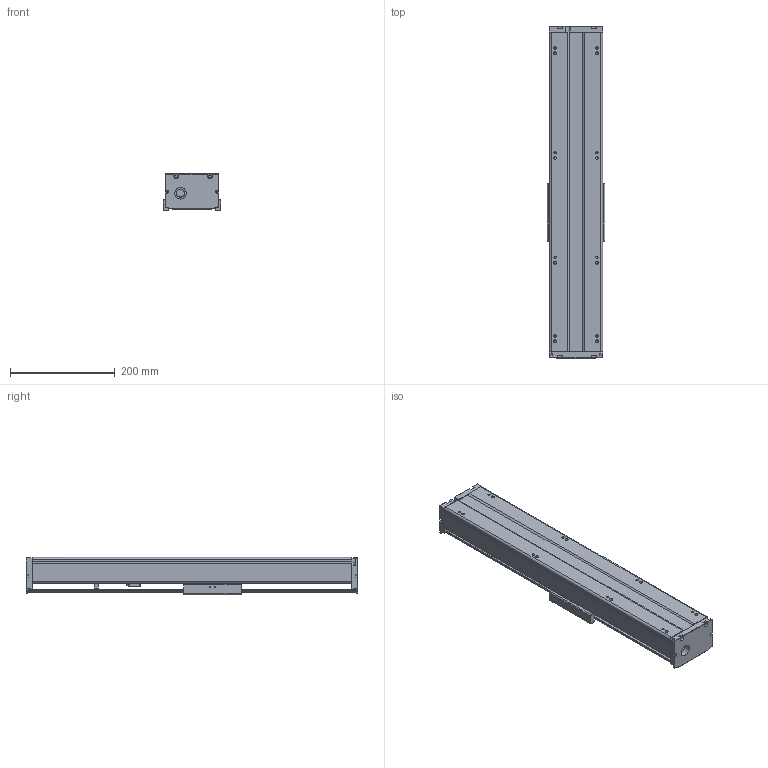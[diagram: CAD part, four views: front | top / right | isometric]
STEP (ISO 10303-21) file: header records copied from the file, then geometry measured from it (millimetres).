
FILE_DESCRIPTION(/* description */ (''),/* implementation_level */ '2;1');
FILE_NAME(/* name */ 'TKA100-250A1FI_asm1.stp',/* time_stamp */ '2017-02-21T08:20:42+08:00',/* author */ (''),/* organization */ (''),/* preprocessor_version */ 'ST-DEVELOPER v15',/* originating_system */ 'SIEMENS PLM Software NX 8.5',/* authorisation */ '');
FILE_SCHEMA (('AUTOMOTIVE_DESIGN { 1 0 10303 214 3 1 1 1 }'));
Length unit declared in the file: millimetre
Products named in the file (3): 200-02; 200-01; TKA100-250A1FI_asm1_stp
Assembly tree (2 placements, depth 2):
  TKA100-250A1FI_asm1_stp
    200-01
    200-02
Bounding box: 110 x 634 x 71 mm (x, y, z)
Volume: 1496813.2 mm3; surface area: 475748.4 mm2
Topology: 2 solids, 9 shells, 839 faces, 2160 edges, 1367 vertices
Faces by surface type: plane 355, cylinder 279, cone 145, torus 34, bspline 26
Full cylindrical faces by diameter (mm): 2.5 x4, 2.6 x8, 3.3 x8, 3.4 x4, 3.8 x4, 4.2 x17, 4.3 x4, 4.5 x4, 5 x1, 5.5 x20, 6.6 x4, 8 x5, 9 x4, 10 x8, 11 x4, 12 x7, 15.3 x1, 16 x1, 22 x1, 24 x1, 28 x5, 30 x1
Entity records: 29970 total; most frequent: CARTESIAN_POINT 10428, DIRECTION 4058, ORIENTED_EDGE 3810, EDGE_CURVE 1905, AXIS2_PLACEMENT_3D 1560, VERTEX_POINT 1300, EDGE_LOOP 1109, LINE 938
